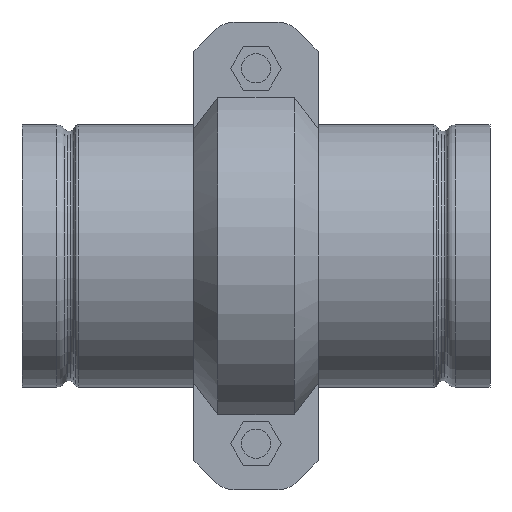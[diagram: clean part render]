
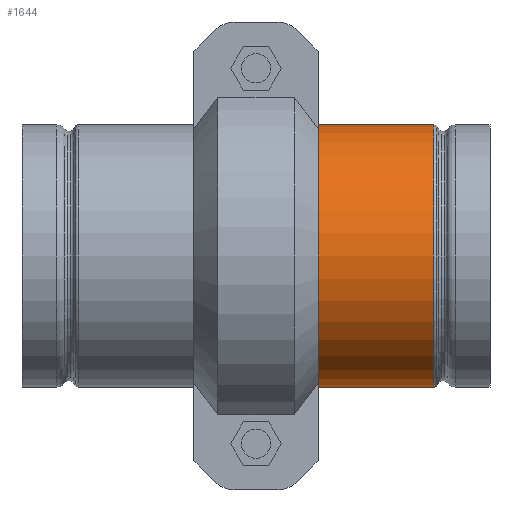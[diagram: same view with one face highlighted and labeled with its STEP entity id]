
A CAD part, front view. The second image highlights one B-rep face of the part: STEP entity #1644.
In plain terms, the highlighted cylindrical face has radius 57.15 mm (diameter 114.3 mm), a full revolution.
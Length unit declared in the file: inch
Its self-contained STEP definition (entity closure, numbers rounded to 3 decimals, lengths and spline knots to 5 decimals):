
#51=LINE('',#2687,#142);
#142=VECTOR('',#2160,2.25);
#233=CYLINDRICAL_SURFACE('',#1854,2.25);
#325=FACE_OUTER_BOUND('',#416,.T.);
#416=EDGE_LOOP('',(#1144,#1145,#1146,#1147,#1148,#1149,#1150,#1151));
#547=CIRCLE('',#1850,2.25);
#548=CIRCLE('',#1851,2.25);
#550=CIRCLE('',#1853,2.25);
#551=CIRCLE('',#1855,2.25);
#552=CIRCLE('',#1856,2.25);
#553=CIRCLE('',#1857,2.25);
#680=VERTEX_POINT('',#2674);
#681=VERTEX_POINT('',#2675);
#682=VERTEX_POINT('',#2677);
#683=VERTEX_POINT('',#2682);
#684=VERTEX_POINT('',#2683);
#685=VERTEX_POINT('',#2685);
#859=EDGE_CURVE('',#680,#681,#547,.T.);
#860=EDGE_CURVE('',#681,#682,#548,.T.);
#862=EDGE_CURVE('',#682,#680,#550,.T.);
#863=EDGE_CURVE('',#683,#684,#551,.T.);
#864=EDGE_CURVE('',#685,#683,#552,.T.);
#865=EDGE_CURVE('',#685,#681,#51,.T.);
#866=EDGE_CURVE('',#684,#685,#553,.T.);
#1144=ORIENTED_EDGE('',*,*,#863,.F.);
#1145=ORIENTED_EDGE('',*,*,#864,.F.);
#1146=ORIENTED_EDGE('',*,*,#865,.T.);
#1147=ORIENTED_EDGE('',*,*,#859,.F.);
#1148=ORIENTED_EDGE('',*,*,#862,.F.);
#1149=ORIENTED_EDGE('',*,*,#860,.F.);
#1150=ORIENTED_EDGE('',*,*,#865,.F.);
#1151=ORIENTED_EDGE('',*,*,#866,.F.);
#1644=ADVANCED_FACE('',(#325),#233,.T.);
#1850=AXIS2_PLACEMENT_3D('',#2676,#2146,#2147);
#1851=AXIS2_PLACEMENT_3D('',#2678,#2148,#2149);
#1853=AXIS2_PLACEMENT_3D('',#2680,#2152,#2153);
#1854=AXIS2_PLACEMENT_3D('',#2681,#2154,#2155);
#1855=AXIS2_PLACEMENT_3D('',#2684,#2156,#2157);
#1856=AXIS2_PLACEMENT_3D('',#2686,#2158,#2159);
#1857=AXIS2_PLACEMENT_3D('',#2688,#2161,#2162);
#2146=DIRECTION('center_axis',(-1.,0.,0.));
#2147=DIRECTION('ref_axis',(0.,-1.,0.));
#2148=DIRECTION('center_axis',(-1.,0.,0.));
#2149=DIRECTION('ref_axis',(0.,-1.,0.));
#2152=DIRECTION('center_axis',(-1.,0.,0.));
#2153=DIRECTION('ref_axis',(0.,-1.,0.));
#2154=DIRECTION('center_axis',(1.,0.,0.));
#2155=DIRECTION('ref_axis',(0.,1.,0.));
#2156=DIRECTION('center_axis',(1.,0.,0.));
#2157=DIRECTION('ref_axis',(0.,-1.,0.));
#2158=DIRECTION('center_axis',(1.,0.,0.));
#2159=DIRECTION('ref_axis',(0.,-1.,0.));
#2160=DIRECTION('',(-1.,0.,0.));
#2161=DIRECTION('center_axis',(1.,0.,0.));
#2162=DIRECTION('ref_axis',(0.,-1.,0.));
#2674=CARTESIAN_POINT('',(0.999,2.25,0.));
#2675=CARTESIAN_POINT('',(0.999,-2.25,0.));
#2676=CARTESIAN_POINT('Origin',(0.999,0.,0.));
#2677=CARTESIAN_POINT('',(0.999,0.,2.25));
#2678=CARTESIAN_POINT('Origin',(0.999,0.,0.));
#2680=CARTESIAN_POINT('Origin',(0.999,0.,0.));
#2681=CARTESIAN_POINT('Origin',(2.01686,0.,0.));
#2682=CARTESIAN_POINT('',(3.03349,2.25,0.));
#2683=CARTESIAN_POINT('',(3.03349,0.,2.25));
#2684=CARTESIAN_POINT('Origin',(3.03349,0.,0.));
#2685=CARTESIAN_POINT('',(3.03349,-2.25,0.));
#2686=CARTESIAN_POINT('Origin',(3.03349,0.,0.));
#2687=CARTESIAN_POINT('',(2.01686,-2.25,0.));
#2688=CARTESIAN_POINT('Origin',(3.03349,0.,0.));
